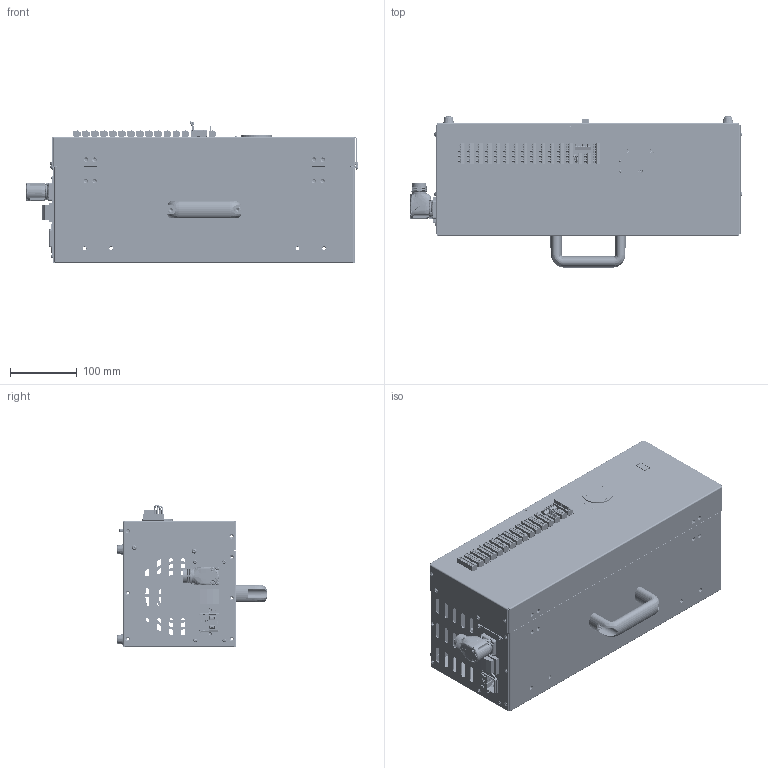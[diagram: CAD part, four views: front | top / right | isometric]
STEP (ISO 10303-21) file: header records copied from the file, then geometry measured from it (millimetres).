
FILE_DESCRIPTION (( 'STEP AP203' ), '1' );
FILE_NAME ('ERB1C2K0N.STEP', '2024-05-15T06:31:01', ( '' ), ( '' ), 'SwSTEP 2.0', 'SolidWorks 2017', '' );
FILE_SCHEMA (( 'CONFIG_CONTROL_DESIGN' ));
Products named in the file (23): GB_T70.1-2008 M6x16; ERB1C2K0N; 蝓蟈 A-120-6-01; 4301.0501; 囀鞠褒す埴芛蹟隊 GB _T 70.2 - 2015   M3X8; 船型开关 KCD4 四脚两档带灯 红色 220V 30A; XAG61-L100; ERB1C2K0N连接器安装钣金_默认SM-FLAT-PATTERN; 假蚾鍼踢裔啣; 1621559; NHY11-16; OEM眊极-C; 蝓蟈 A-120-6-02; NB40200025 Safe Io-C20-勤俋; PLP2-250; GBT70．1-2000内六角圆柱头螺钉M3×8; OEM眊极-C-藷; OEM眊极-C-眊极; 囀鞠褒す埴芛蹟隊 GB _T 70.2 - 2015   M4X8; 蝓蟈 A-120-6; 蝓蟈 A-120-6-03; 囀鞠褒麥芛蹟隊 GB-T70.3-2008 M3X6; 儕馱悵玸佪
Assembly tree (45 placements, depth 4):
  ERB1C2K0N
    OEM眊极-C
      OEM眊极-C-眊极
      OEM眊极-C-藷
      蝓蟈 A-120-6  x2
        蝓蟈 A-120-6-01
        蝓蟈 A-120-6-02
        蝓蟈 A-120-6-03
      XAG61-L100
      NHY11-16  x4
      GBT70．1-2000内六角圆柱头螺钉M3×8  x4
      GB_T70.1-2008 M6x16  x2
      囀鞠褒す埴芛蹟隊 GB _T 70.2 - 2015   M4X8  x4
    1621559
    ERB1C2K0N连接器安装钣金_默认SM-FLAT-PATTERN
    NB40200025 Safe Io-C20-勤俋
    假蚾鍼踢裔啣
    船型开关 KCD4 四脚两档带灯 红色 220V 30A
    PLP2-250  x2
    儕馱悵玸佪
    囀鞠褒す埴芛蹟隊 GB _T 70.2 - 2015   M3X8  x8
    囀鞠褒麥芛蹟隊 GB-T70.3-2008 M3X6  x5
    4301.0501
Bounding box: 499.19 x 226.94 x 213.6 mm (x, y, z)
Volume: 705121.8 mm3; surface area: 1101011.7 mm2
Topology: 66 solids, 186 shells, 33484 faces, 89560 edges, 57839 vertices
Faces by surface type: plane 20371, cylinder 9060, bspline 2791, cone 1046, torus 181, sphere 35
Entity records: 1131982 total; most frequent: CARTESIAN_POINT 331750, ORIENTED_EDGE 174080, DIRECTION 152363, EDGE_CURVE 87053, VECTOR 58231, LINE 58231, VERTEX_POINT 56627, AXIS2_PLACEMENT_3D 47066
